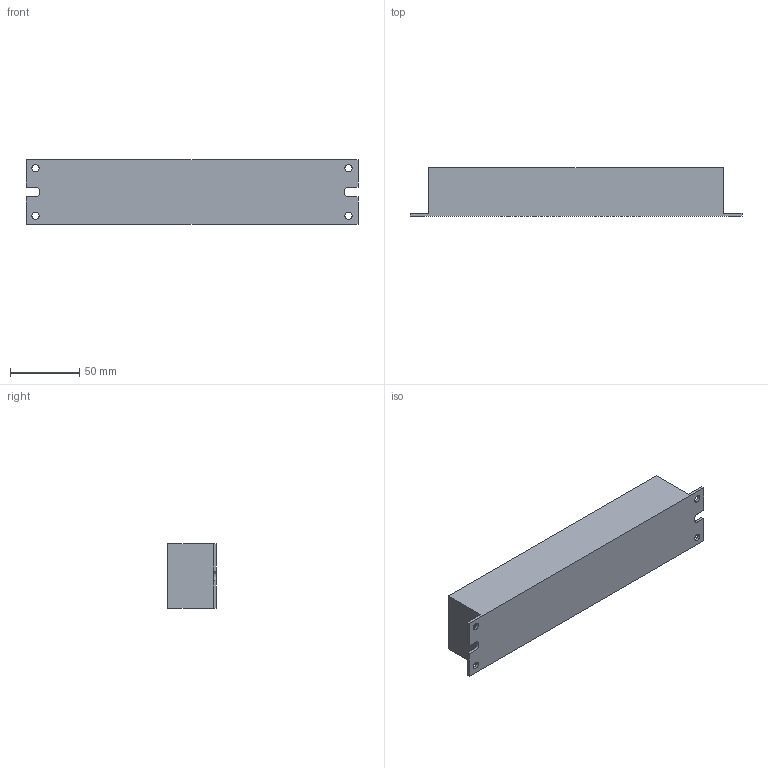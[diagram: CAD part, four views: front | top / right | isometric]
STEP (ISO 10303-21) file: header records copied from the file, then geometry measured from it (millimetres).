
FILE_DESCRIPTION((''),'2;1');
FILE_NAME('BB_CASE_RF','2015-10-04T',('Joe'),(''),'CREO PARAMETRIC BY PTC INC, 2014350','CREO PARAMETRIC BY PTC INC, 2014350','');
FILE_SCHEMA(('CONFIG_CONTROL_DESIGN'));
Length unit declared in the file: inch
Products named in the file (1): BB_CASE_RF
Bounding box: 240.28 x 35.05 x 46.99 mm (x, y, z)
Volume: 353522.9 mm3; surface area: 40715 mm2
Topology: 1 solids, 1 shells, 29 faces, 78 edges, 52 vertices
Faces by surface type: plane 17, cylinder 12
Entity records: 972 total; most frequent: DIRECTION 160, CARTESIAN_POINT 159, ORIENTED_EDGE 156, EDGE_CURVE 78, VECTOR 54, LINE 54, AXIS2_PLACEMENT_3D 53, VERTEX_POINT 52
